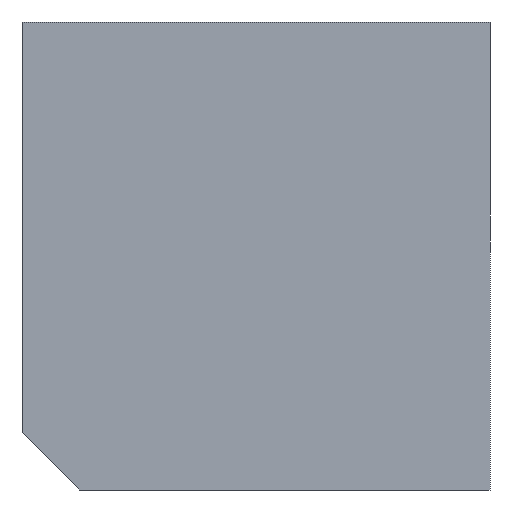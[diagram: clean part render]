
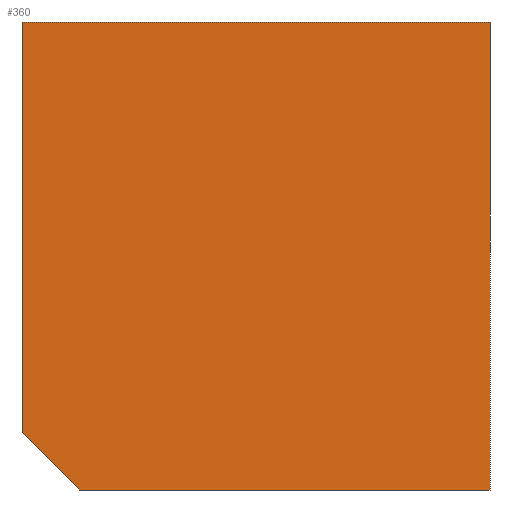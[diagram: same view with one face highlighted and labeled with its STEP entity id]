
A CAD part, left-side view. The second image highlights one B-rep face of the part: STEP entity #360.
In plain terms, the highlighted planar face has unit normal (-1, 0, 0).
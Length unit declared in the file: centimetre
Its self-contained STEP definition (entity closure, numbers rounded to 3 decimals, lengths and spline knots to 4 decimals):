
#17 = VERTEX_POINT ( 'NONE', #253 ) ;
#29 = VECTOR ( 'NONE', #413, 100. ) ;
#30 = LINE ( 'NONE', #103, #167 ) ;
#33 = DIRECTION ( 'NONE',  ( 0., -1., 0. ) ) ;
#45 = CARTESIAN_POINT ( 'NONE',  ( 0., 1000., 1000. ) ) ;
#52 = VERTEX_POINT ( 'NONE', #96 ) ;
#66 = ORIENTED_EDGE ( 'NONE', *, *, #308, .T. ) ;
#72 = FACE_OUTER_BOUND ( 'NONE', #110, .T. ) ;
#96 = CARTESIAN_POINT ( 'NONE',  ( 0., 0., 1000. ) ) ;
#103 = CARTESIAN_POINT ( 'NONE',  ( 0., 1000., 1000. ) ) ;
#110 = EDGE_LOOP ( 'NONE', ( #154, #223, #66, #262, #385 ) ) ;
#119 = EDGE_CURVE ( 'NONE', #212, #52, #407, .T. ) ;
#154 = ORIENTED_EDGE ( 'NONE', *, *, #291, .T. ) ;
#167 = VECTOR ( 'NONE', #323, 100. ) ;
#171 = EDGE_CURVE ( 'NONE', #371, #330, #194, .T. ) ;
#183 = DIRECTION ( 'NONE',  ( 0., 0., -1. ) ) ;
#185 = VECTOR ( 'NONE', #362, 100. ) ;
#187 = CARTESIAN_POINT ( 'NONE',  ( 0., 1000., 122.0477 ) ) ;
#194 = LINE ( 'NONE', #225, #392 ) ;
#212 = VERTEX_POINT ( 'NONE', #45 ) ;
#219 = CARTESIAN_POINT ( 'NONE',  ( 0., 1000., 1000. ) ) ;
#223 = ORIENTED_EDGE ( 'NONE', *, *, #171, .T. ) ;
#225 = CARTESIAN_POINT ( 'NONE',  ( 0., 1000., 122.0477 ) ) ;
#226 = AXIS2_PLACEMENT_3D ( 'NONE', #219, #368, #183 ) ;
#253 = CARTESIAN_POINT ( 'NONE',  ( 0., 0., 0. ) ) ;
#256 = CARTESIAN_POINT ( 'NONE',  ( 0., 1000., 0. ) ) ;
#259 = LINE ( 'NONE', #256, #306 ) ;
#262 = ORIENTED_EDGE ( 'NONE', *, *, #287, .F. ) ;
#287 = EDGE_CURVE ( 'NONE', #52, #17, #402, .T. ) ;
#288 = CARTESIAN_POINT ( 'NONE',  ( 0., 877.9523, 0. ) ) ;
#291 = EDGE_CURVE ( 'NONE', #212, #371, #30, .T. ) ;
#306 = VECTOR ( 'NONE', #33, 100. ) ;
#308 = EDGE_CURVE ( 'NONE', #330, #17, #259, .T. ) ;
#323 = DIRECTION ( 'NONE',  ( 0., 0., -1. ) ) ;
#330 = VERTEX_POINT ( 'NONE', #288 ) ;
#360 = ADVANCED_FACE ( 'NONE', ( #72 ), #412, .F. ) ;
#362 = DIRECTION ( 'NONE',  ( 0., 0., -1. ) ) ;
#368 = DIRECTION ( 'NONE',  ( 1., 0., 0. ) ) ;
#369 = DIRECTION ( 'NONE',  ( 0., -0.707, -0.707 ) ) ;
#371 = VERTEX_POINT ( 'NONE', #187 ) ;
#378 = CARTESIAN_POINT ( 'NONE',  ( 0., 1000., 1000. ) ) ;
#385 = ORIENTED_EDGE ( 'NONE', *, *, #119, .F. ) ;
#392 = VECTOR ( 'NONE', #369, 100. ) ;
#402 = LINE ( 'NONE', #473, #185 ) ;
#407 = LINE ( 'NONE', #378, #29 ) ;
#412 = PLANE ( 'NONE',  #226 ) ;
#413 = DIRECTION ( 'NONE',  ( 0., -1., 0. ) ) ;
#473 = CARTESIAN_POINT ( 'NONE',  ( 0., 0., 1000. ) ) ;
